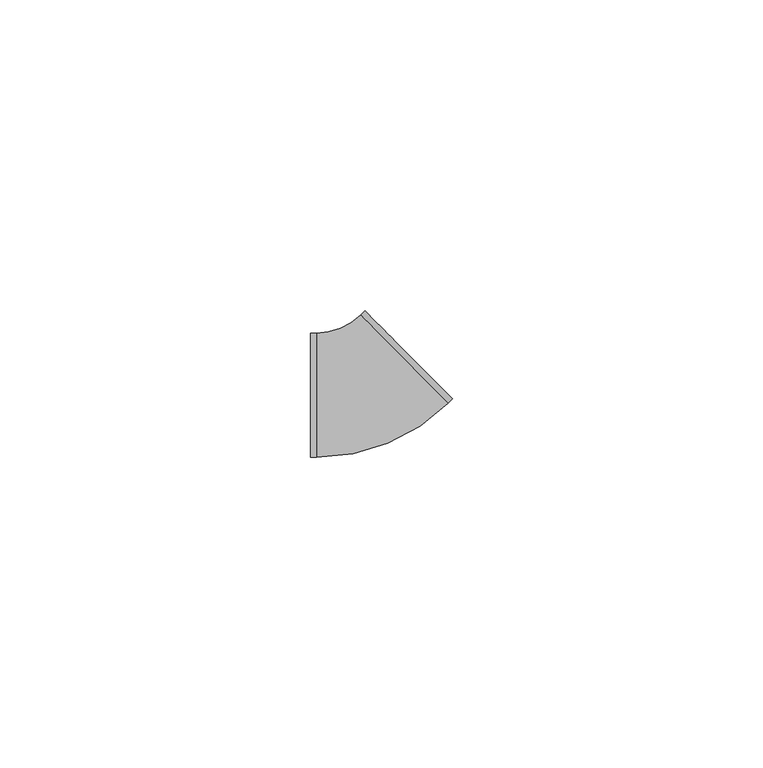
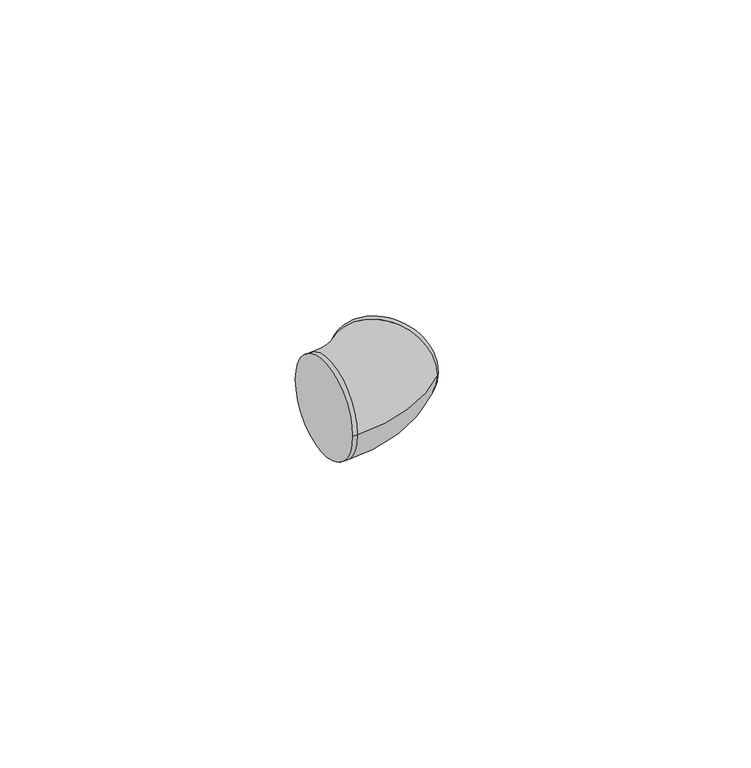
"""IFC4 building model written with IfcOpenShell, lengths in millimetres: cable carrier fitting geometry, ADSK_Поворот_Минимальный размер : Неспецифицируемый."""

from ifc_helpers import new_model, si_unit, point, frame, origin, place, context, project, spatial, circle_curve, ellipse_curve, trimmed, source, transform, mapped, element, save
from ifc_brep_helpers import plane_surface, cylinder_surface, revolved_surface, advanced_brep


def cable_carrier_fitting_baf4b435(model_context):
    return source(origin(), model_context, "Body", "AdvancedBrep", [
        advanced_brep(
        [(-9.2505096, -10.0, 0.0), (-9.2505096, 10.0, 0.0), (-8.2505096, -10.0, 0.0), (-8.2505096, 10.0, 0.0), (-1.1998603, 12.9085725, 0.0), (12.9014384, -1.2742825, 0.0), (13.6105811, -0.5692176, 0.0), (-0.4907175, 13.6136374, 0.0)],
        [
            (0, 1, circle_curve(frame((-9.2505096, 0.0, 0.0), z_axis=(-1.0, -4.92260399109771e-12, 0.0), x_axis=(-4.92260399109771e-12, 1.0, 0.0)), 10.0)),
            (1, 0, circle_curve(frame((-9.2505096, 0.0, 0.0), z_axis=(-1.0, -4.92260399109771e-12, 0.0), x_axis=(-4.92260399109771e-12, 1.0, 0.0)), 10.0)),
            (0, 2),
            (2, 3, circle_curve(frame((-8.2505096, 0.0, 0.0), z_axis=(-1.0, -4.92260399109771e-12, 0.0), x_axis=(-4.92260399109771e-12, 1.0, 0.0)), 10.0)),
            (3, 1),
            (3, 2, circle_curve(frame((-8.2505096, 0.0, 0.0), z_axis=(-1.0, -4.92260399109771e-12, 0.0), x_axis=(-4.92260399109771e-12, 1.0, 0.0)), 10.0)),
            (4, 3, circle_curve(frame((-8.2505096, 20.0, 0.0), z_axis=(0.0, 0.0, -1.0), x_axis=(0.0, -1.0, 0.0)), 10.0)),
            (2, 5, circle_curve(frame((-8.2505096, 20.0, 0.0), z_axis=(0.0, 0.0, 1.0), x_axis=(0.0, -1.0, 0.0)), 30.0)),
            (5, 4, circle_curve(frame((5.8507891, 5.817145, 0.0), z_axis=(-0.7091427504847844, -0.7050649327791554, 0.0), x_axis=(-0.7050649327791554, 0.7091427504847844, 0.0)), 10.0)),
            (4, 5, circle_curve(frame((5.8507891, 5.817145, 0.0), z_axis=(-0.7091427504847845, -0.7050649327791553, 0.0), x_axis=(-0.7050649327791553, 0.7091427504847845, 0.0)), 10.0)),
            (6, 7, circle_curve(frame((6.5599318, 6.5222099, 0.0), z_axis=(0.7091427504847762, 0.7050649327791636, 0.0), x_axis=(-0.7050649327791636, 0.7091427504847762, 0.0)), 10.0)),
            (7, 6, circle_curve(frame((6.5599318, 6.5222099, 0.0), z_axis=(0.7091427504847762, 0.7050649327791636, 0.0), x_axis=(-0.7050649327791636, 0.7091427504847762, 0.0)), 10.0)),
            (5, 6),
            (7, 4),
        ],
        [
            plane_surface(frame((-9.2505096, 0.0, 0.0), z_axis=(-1.0, -4.92260399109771e-12, 0.0), x_axis=(0.0, 0.0, 1.0))),
            cylinder_surface(frame((-9.2505096, 0.0, 0.0), z_axis=(-1.0, -4.92260399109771e-12, 0.0), x_axis=(-4.92260399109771e-12, 1.0, 0.0)), 10.0),
            revolved_surface(trimmed(ellipse_curve(frame((-8.2505096, 0.0, 0.0), z_axis=(-1.0, 0.0, 0.0), x_axis=(0.0, 1.0, 0.0)), 10.0, 10.0), [point((-8.2505096, -10.0, 0.0))], [point((-8.2505096, 10.0, 0.0))], True, "CARTESIAN"), (-8.2505096, 20.0, 0.0), (0.0, 0.0, 1.0)),
            revolved_surface(trimmed(ellipse_curve(frame((-8.2505096, 0.0, 0.0), z_axis=(-1.0, 0.0, 0.0), x_axis=(0.0, 1.0, 0.0)), 10.0, 10.0), [point((-8.2505096, 10.0, 0.0))], [point((-8.2505096, -10.0, 0.0))], True, "CARTESIAN"), (-8.2505096, 20.0, 0.0), (0.0, 0.0, 1.0)),
            plane_surface(frame((6.5599318, 6.5222099, 0.0), z_axis=(0.709142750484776, 0.7050649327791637, 0.0), x_axis=(0.0, 0.0, 1.0))),
            cylinder_surface(frame((5.8507891, 5.817145, 0.0), z_axis=(-0.7091427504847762, -0.7050649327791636, 0.0), x_axis=(-0.7050649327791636, 0.7091427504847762, 0.0)), 10.0),
        ],
        [
            (0, [[1, 2]]),
            (1, [[-1, 3, 4, 5]]),
            (1, [[-2, -5, 6, -3]]),
            (2, [[7, -4, 8, 9]]),
            (3, [[-8, -6, -7, 10]]),
            (4, [[11, 12]]),
            (5, [[-9, 13, -12, 14]]),
            (5, [[-10, -14, -11, -13]]),
        ],
    ),
    ])


if __name__ == "__main__":
    model = new_model("IFC4")
    model_context = context("Model", 3, world=origin())
    ifc_project = project(units=[si_unit("LENGTHUNIT", "METRE", prefix="MILLI")], contexts=[model_context])
    site = spatial("IfcSite", under=ifc_project)
    building = spatial("IfcBuilding", under=site)
    placement = place(None, origin())
    cable_carrier_fitting_shape = cable_carrier_fitting_baf4b435(model_context)
    element("IfcCableCarrierFitting", 1, ObjectType="ADSK_Поворот_Минимальный размер : Неспецифицируемый", at=placement, inside=building, context=model_context, shape_type="MappedRepresentation", body=[
        mapped(cable_carrier_fitting_shape, transform((0.0, 0.0, 0.0), x_axis=(1.0, 0.0, 0.0), y_axis=(0.0, 1.0, 0.0), z_axis=(0.0, 0.0, 1.0))),
    ])
    save(model, "model.ifc")
